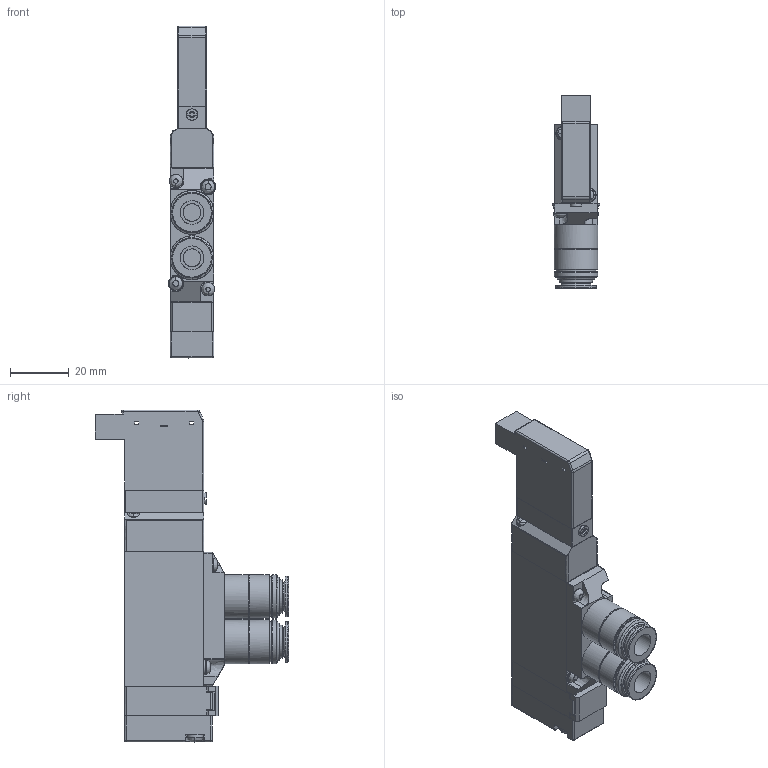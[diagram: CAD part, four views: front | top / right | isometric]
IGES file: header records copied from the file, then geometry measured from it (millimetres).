
Start section: ------------------------------------------------------------------------
Global section: file name: D:\ICADMX\tmp\trans3d_spg\CVICAD02.7120.F15T1-FJ_16857.igs; native system: spGate; preprocessor: ver12.6.6; author: Unknown; organization: Unknown; date: 210712.184909; units: millimetre
Bounding box: 16.2 x 66 x 113.5 mm (x, y, z)
Surface area: 21091.3 mm2 (no closed solid volume)
Topology: 0 solids, 0 shells, 362 faces, 1929 edges, 1910 vertices
Faces by surface type: bspline 362
